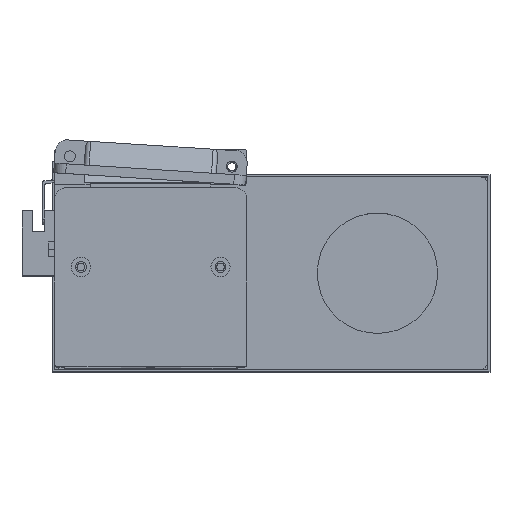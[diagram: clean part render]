
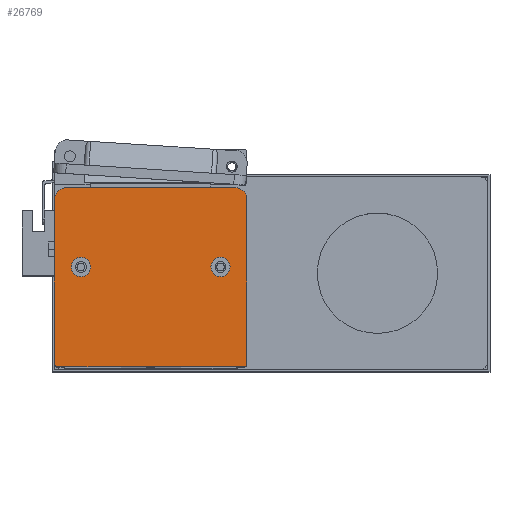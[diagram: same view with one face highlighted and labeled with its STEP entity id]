
A CAD part, top view. The second image highlights one B-rep face of the part: STEP entity #26769.
In plain terms, the highlighted planar face has unit normal (0, 0, 1).
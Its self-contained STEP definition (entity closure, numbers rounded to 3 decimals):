
#502 = EDGE_CURVE ( 'NONE', #5365, #22228, #2977, .T. ) ;
#610 = VERTEX_POINT ( 'NONE', #13910 ) ;
#714 = DIRECTION ( 'NONE',  ( 0., 0., -1. ) ) ;
#1784 = ORIENTED_EDGE ( 'NONE', *, *, #11229, .T. ) ;
#1987 = VECTOR ( 'NONE', #26549, 1000. ) ;
#2066 = LINE ( 'NONE', #8053, #1987 ) ;
#2094 = CARTESIAN_POINT ( 'NONE',  ( 0., 0., 10. ) ) ;
#2484 = CARTESIAN_POINT ( 'NONE',  ( 0., 74.5, 10. ) ) ;
#2834 = EDGE_CURVE ( 'NONE', #18030, #5365, #19127, .T. ) ;
#2973 = ORIENTED_EDGE ( 'NONE', *, *, #23916, .F. ) ;
#2977 = CIRCLE ( 'NONE', #18706, 1. ) ;
#3005 = ORIENTED_EDGE ( 'NONE', *, *, #20552, .T. ) ;
#3237 = DIRECTION ( 'NONE',  ( 0., 0., 1. ) ) ;
#3552 = AXIS2_PLACEMENT_3D ( 'NONE', #13240, #714, #15322 ) ;
#3662 = CIRCLE ( 'NONE', #25612, 5. ) ;
#3824 = CARTESIAN_POINT ( 'NONE',  ( 73., 41.5, 10. ) ) ;
#4548 = DIRECTION ( 'NONE',  ( -1., 0., 0. ) ) ;
#5160 = VERTEX_POINT ( 'NONE', #5995 ) ;
#5365 = VERTEX_POINT ( 'NONE', #12731 ) ;
#5518 = CIRCLE ( 'NONE', #25623, 1. ) ;
#5995 = CARTESIAN_POINT ( 'NONE',  ( 79., 0., 10. ) ) ;
#6634 = VECTOR ( 'NONE', #24728, 1000. ) ;
#6668 = LINE ( 'NONE', #2484, #6634 ) ;
#6726 = EDGE_CURVE ( 'NONE', #22228, #5160, #2066, .T. ) ;
#6772 = DIRECTION ( 'NONE',  ( 0., 0., 1. ) ) ;
#7223 = ORIENTED_EDGE ( 'NONE', *, *, #26084, .F. ) ;
#7442 = CIRCLE ( 'NONE', #14768, 5. ) ;
#7499 = DIRECTION ( 'NONE',  ( 0., 0., 1. ) ) ;
#7807 = ORIENTED_EDGE ( 'NONE', *, *, #10362, .F. ) ;
#8053 = CARTESIAN_POINT ( 'NONE',  ( 0., 0., 10. ) ) ;
#8117 = DIRECTION ( 'NONE',  ( 0., 0., 1. ) ) ;
#8225 = CARTESIAN_POINT ( 'NONE',  ( 7., 41.5, 10. ) ) ;
#8388 = DIRECTION ( 'NONE',  ( 0., -1., 0. ) ) ;
#8475 = VERTEX_POINT ( 'NONE', #23194 ) ;
#8618 = ORIENTED_EDGE ( 'NONE', *, *, #502, .T. ) ;
#9104 = PLANE ( 'NONE',  #3552 ) ;
#9598 = CARTESIAN_POINT ( 'NONE',  ( 11., 41.5, 10. ) ) ;
#9960 = CARTESIAN_POINT ( 'NONE',  ( 15., 41.5, 10. ) ) ;
#10102 = CIRCLE ( 'NONE', #19010, 4. ) ;
#10182 = CARTESIAN_POINT ( 'NONE',  ( 79., 1., 10. ) ) ;
#10292 = CARTESIAN_POINT ( 'NONE',  ( 69., 41.5, 10. ) ) ;
#10362 = EDGE_CURVE ( 'NONE', #10511, #14383, #10532, .T. ) ;
#10511 = VERTEX_POINT ( 'NONE', #9960 ) ;
#10532 = CIRCLE ( 'NONE', #14798, 4. ) ;
#10949 = DIRECTION ( 'NONE',  ( 0., 0., 1. ) ) ;
#11229 = EDGE_CURVE ( 'NONE', #23599, #8475, #6668, .T. ) ;
#11674 = DIRECTION ( 'NONE',  ( 1., 0., 0. ) ) ;
#12075 = AXIS2_PLACEMENT_3D ( 'NONE', #10292, #24682, #12365 ) ;
#12251 = DIRECTION ( 'NONE',  ( -1., 0., 0. ) ) ;
#12312 = DIRECTION ( 'NONE',  ( 0., 1., 0. ) ) ;
#12365 = DIRECTION ( 'NONE',  ( 1., 0., 0. ) ) ;
#12372 = CARTESIAN_POINT ( 'NONE',  ( 65., 41.5, 10. ) ) ;
#12731 = CARTESIAN_POINT ( 'NONE',  ( 0., 1., 10. ) ) ;
#13240 = CARTESIAN_POINT ( 'NONE',  ( 0., 0., 10. ) ) ;
#13835 = EDGE_CURVE ( 'NONE', #22703, #610, #25743, .T. ) ;
#13910 = CARTESIAN_POINT ( 'NONE',  ( 80., 69.5, 10. ) ) ;
#13928 = AXIS2_PLACEMENT_3D ( 'NONE', #19150, #6772, #21232 ) ;
#14383 = VERTEX_POINT ( 'NONE', #8225 ) ;
#14398 = VERTEX_POINT ( 'NONE', #12372 ) ;
#14582 = ORIENTED_EDGE ( 'NONE', *, *, #6726, .T. ) ;
#14768 = AXIS2_PLACEMENT_3D ( 'NONE', #23307, #10949, #25349 ) ;
#14798 = AXIS2_PLACEMENT_3D ( 'NONE', #9598, #24035, #11674 ) ;
#15322 = DIRECTION ( 'NONE',  ( -1., 0., 0. ) ) ;
#16030 = CIRCLE ( 'NONE', #13928, 4. ) ;
#16928 = EDGE_CURVE ( 'NONE', #8475, #18030, #7442, .T. ) ;
#17351 = CARTESIAN_POINT ( 'NONE',  ( 75., 74.5, 10. ) ) ;
#17512 = ORIENTED_EDGE ( 'NONE', *, *, #16928, .T. ) ;
#17786 = EDGE_CURVE ( 'NONE', #610, #23599, #3662, .T. ) ;
#18030 = VERTEX_POINT ( 'NONE', #21170 ) ;
#18282 = CARTESIAN_POINT ( 'NONE',  ( 80., 1., 10. ) ) ;
#18638 = EDGE_CURVE ( 'NONE', #21119, #14398, #16030, .T. ) ;
#18656 = ORIENTED_EDGE ( 'NONE', *, *, #13835, .T. ) ;
#18706 = AXIS2_PLACEMENT_3D ( 'NONE', #21361, #3237, #4548 ) ;
#19010 = AXIS2_PLACEMENT_3D ( 'NONE', #19831, #7499, #21908 ) ;
#19023 = ORIENTED_EDGE ( 'NONE', *, *, #17786, .T. ) ;
#19049 = VECTOR ( 'NONE', #8388, 1000. ) ;
#19127 = LINE ( 'NONE', #2094, #19049 ) ;
#19150 = CARTESIAN_POINT ( 'NONE',  ( 69., 41.5, 10. ) ) ;
#19831 = CARTESIAN_POINT ( 'NONE',  ( 11., 41.5, 10. ) ) ;
#20475 = CARTESIAN_POINT ( 'NONE',  ( 75., 69.5, 10. ) ) ;
#20479 = FACE_BOUND ( 'NONE', #21429, .T. ) ;
#20552 = EDGE_CURVE ( 'NONE', #5160, #22703, #5518, .T. ) ;
#21111 = ORIENTED_EDGE ( 'NONE', *, *, #2834, .T. ) ;
#21119 = VERTEX_POINT ( 'NONE', #3824 ) ;
#21170 = CARTESIAN_POINT ( 'NONE',  ( 0., 69.5, 10. ) ) ;
#21232 = DIRECTION ( 'NONE',  ( 1., 0., 0. ) ) ;
#21361 = CARTESIAN_POINT ( 'NONE',  ( 1., 1., 10. ) ) ;
#21362 = VECTOR ( 'NONE', #12312, 1000. ) ;
#21429 = EDGE_LOOP ( 'NONE', ( #25576, #2973 ) ) ;
#21908 = DIRECTION ( 'NONE',  ( 1., 0., 0. ) ) ;
#22228 = VERTEX_POINT ( 'NONE', #24503 ) ;
#22535 = DIRECTION ( 'NONE',  ( -1., 0., 0. ) ) ;
#22703 = VERTEX_POINT ( 'NONE', #18282 ) ;
#23194 = CARTESIAN_POINT ( 'NONE',  ( 5., 74.5, 10. ) ) ;
#23274 = EDGE_LOOP ( 'NONE', ( #7807, #7223 ) ) ;
#23307 = CARTESIAN_POINT ( 'NONE',  ( 5., 69.5, 10. ) ) ;
#23599 = VERTEX_POINT ( 'NONE', #17351 ) ;
#23916 = EDGE_CURVE ( 'NONE', #14398, #21119, #26737, .T. ) ;
#24035 = DIRECTION ( 'NONE',  ( 0., 0., 1. ) ) ;
#24503 = CARTESIAN_POINT ( 'NONE',  ( 1., 0., 10. ) ) ;
#24571 = DIRECTION ( 'NONE',  ( 0., 0., 1. ) ) ;
#24638 = CARTESIAN_POINT ( 'NONE',  ( 80., 0., 10. ) ) ;
#24682 = DIRECTION ( 'NONE',  ( 0., 0., 1. ) ) ;
#24728 = DIRECTION ( 'NONE',  ( -1., 0., 0. ) ) ;
#24963 = EDGE_LOOP ( 'NONE', ( #21111, #8618, #14582, #3005, #18656, #19023, #1784, #17512 ) ) ;
#24972 = FACE_OUTER_BOUND ( 'NONE', #24963, .T. ) ;
#25002 = FACE_BOUND ( 'NONE', #23274, .T. ) ;
#25349 = DIRECTION ( 'NONE',  ( -1., 0., 0. ) ) ;
#25576 = ORIENTED_EDGE ( 'NONE', *, *, #18638, .F. ) ;
#25612 = AXIS2_PLACEMENT_3D ( 'NONE', #20475, #8117, #22535 ) ;
#25623 = AXIS2_PLACEMENT_3D ( 'NONE', #10182, #24571, #12251 ) ;
#25743 = LINE ( 'NONE', #24638, #21362 ) ;
#26084 = EDGE_CURVE ( 'NONE', #14383, #10511, #10102, .T. ) ;
#26549 = DIRECTION ( 'NONE',  ( 1., 0., 0. ) ) ;
#26737 = CIRCLE ( 'NONE', #12075, 4. ) ;
#26769 = ADVANCED_FACE ( 'NONE', ( #20479, #25002, #24972 ), #9104, .F. ) ;
